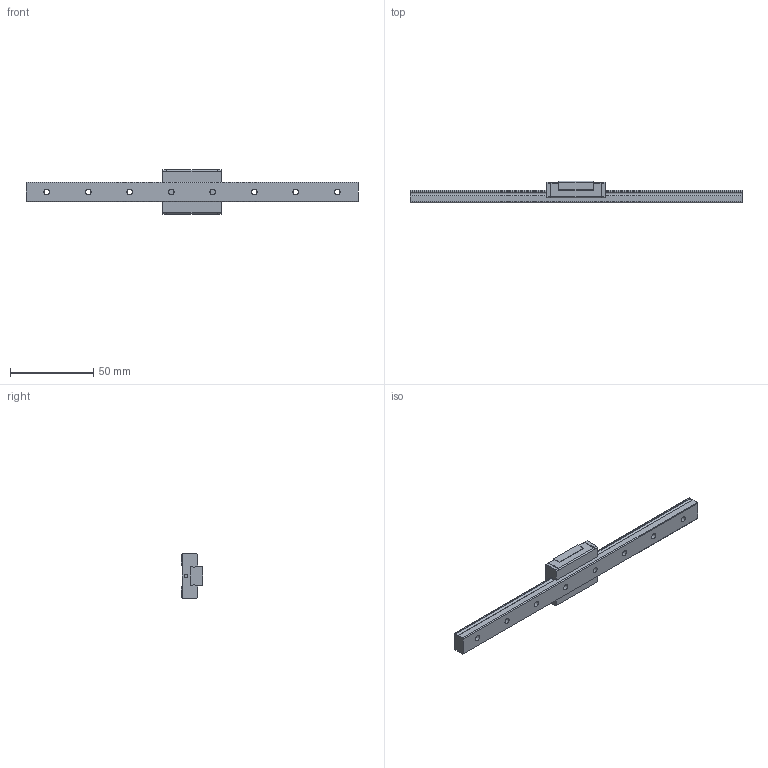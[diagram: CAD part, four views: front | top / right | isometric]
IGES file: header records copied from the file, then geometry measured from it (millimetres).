
Start section: Data from Parasolid IGES Translator 26.0.171, Copyright(c) 2006 Siemens PLM Software. All Rights Reserved.
Global section: file name: RSX12MUU-200LM_G12-5_0_Without grease nipple_82-5_0_0_0_1.igs; native system: By Siemens PLM Incorporated; preprocessor: XPlus GENERIC/IGES 26.0.171; author: Noname; organization: Noname; date: 20240521.102538; units: millimetre
Bounding box: 200 x 13 x 27 mm (x, y, z)
Surface area: 12268.1 mm2 (no closed solid volume)
Topology: 0 solids, 0 shells, 118 faces, 628 edges, 588 vertices
Faces by surface type: extrusion 74, revolution 44
